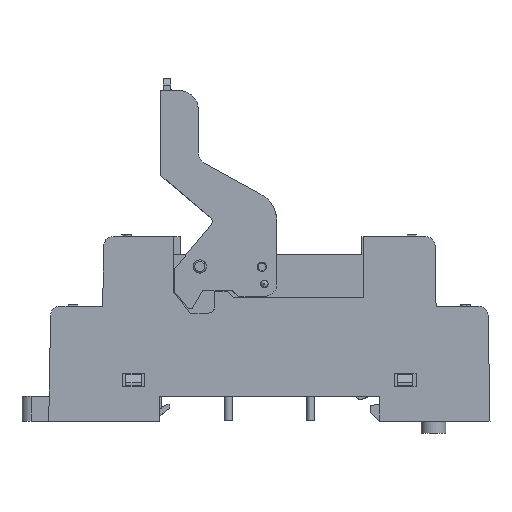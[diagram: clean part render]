
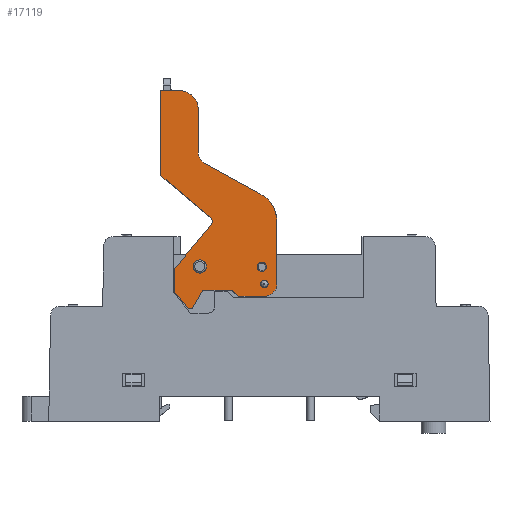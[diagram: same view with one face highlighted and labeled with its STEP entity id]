
A CAD part, top view. The second image highlights one B-rep face of the part: STEP entity #17119.
In plain terms, the highlighted planar face has unit normal (0, 0, 1).
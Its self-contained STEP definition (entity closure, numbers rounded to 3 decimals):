
#3271=FACE_BOUND('',#22493,.T.);
#3272=FACE_BOUND('',#22494,.T.);
#3273=FACE_BOUND('',#22495,.T.);
#3274=FACE_BOUND('',#22496,.T.);
#4280=PLANE('',#54170);
#7637=LINE('',#95614,#12869);
#7642=LINE('',#95629,#12874);
#7646=LINE('',#95646,#12878);
#7647=LINE('',#95651,#12879);
#7648=LINE('',#95653,#12880);
#7649=LINE('',#95655,#12881);
#7650=LINE('',#95659,#12882);
#7651=LINE('',#95661,#12883);
#7652=LINE('',#95663,#12884);
#7653=LINE('',#95665,#12885);
#7654=LINE('',#95669,#12886);
#7655=LINE('',#95672,#12887);
#7656=LINE('',#95674,#12888);
#12869=VECTOR('',#61859,1.);
#12874=VECTOR('',#61872,1.);
#12878=VECTOR('',#61890,1.);
#12879=VECTOR('',#61893,1.);
#12880=VECTOR('',#61894,1.);
#12881=VECTOR('',#61895,1.);
#12882=VECTOR('',#61898,1.);
#12883=VECTOR('',#61899,1.);
#12884=VECTOR('',#61900,1.);
#12885=VECTOR('',#61901,1.);
#12886=VECTOR('',#61904,1.);
#12887=VECTOR('',#61907,1.);
#12888=VECTOR('',#61908,1.);
#17119=ADVANCED_FACE('',(#3271,#3272,#3273,#3274),#4280,.T.);
#22493=EDGE_LOOP('',(#31224,#31225,#31226,#31227,#31228,#31229,#31230,#31231,
#31232,#31233,#31234,#31235,#31236,#31237,#31238,#31239,#31240,#31241,#31242));
#22494=EDGE_LOOP('',(#31243));
#22495=EDGE_LOOP('',(#31244));
#22496=EDGE_LOOP('',(#31245));
#31224=ORIENTED_EDGE('',*,*,#47257,.T.);
#31225=ORIENTED_EDGE('',*,*,#47258,.T.);
#31226=ORIENTED_EDGE('',*,*,#47259,.T.);
#31227=ORIENTED_EDGE('',*,*,#47260,.T.);
#31228=ORIENTED_EDGE('',*,*,#47261,.T.);
#31229=ORIENTED_EDGE('',*,*,#47262,.T.);
#31230=ORIENTED_EDGE('',*,*,#47263,.T.);
#31231=ORIENTED_EDGE('',*,*,#47264,.F.);
#31232=ORIENTED_EDGE('',*,*,#47265,.F.);
#31233=ORIENTED_EDGE('',*,*,#47266,.F.);
#31234=ORIENTED_EDGE('',*,*,#47267,.T.);
#31235=ORIENTED_EDGE('',*,*,#47268,.T.);
#31236=ORIENTED_EDGE('',*,*,#47269,.T.);
#31237=ORIENTED_EDGE('',*,*,#47242,.T.);
#31238=ORIENTED_EDGE('',*,*,#47248,.T.);
#31239=ORIENTED_EDGE('',*,*,#47249,.F.);
#31240=ORIENTED_EDGE('',*,*,#47254,.T.);
#31241=ORIENTED_EDGE('',*,*,#47270,.T.);
#31242=ORIENTED_EDGE('',*,*,#47271,.T.);
#31243=ORIENTED_EDGE('',*,*,#47272,.F.);
#31244=ORIENTED_EDGE('',*,*,#47256,.T.);
#31245=ORIENTED_EDGE('',*,*,#47273,.T.);
#41414=VERTEX_POINT('',#95615);
#41415=VERTEX_POINT('',#95616);
#41419=VERTEX_POINT('',#95626);
#41420=VERTEX_POINT('',#95630);
#41423=VERTEX_POINT('',#95638);
#41425=VERTEX_POINT('',#95644);
#41426=VERTEX_POINT('',#95647);
#41427=VERTEX_POINT('',#95648);
#41428=VERTEX_POINT('',#95650);
#41429=VERTEX_POINT('',#95652);
#41430=VERTEX_POINT('',#95654);
#41431=VERTEX_POINT('',#95656);
#41432=VERTEX_POINT('',#95658);
#41433=VERTEX_POINT('',#95660);
#41434=VERTEX_POINT('',#95662);
#41435=VERTEX_POINT('',#95664);
#41436=VERTEX_POINT('',#95666);
#41437=VERTEX_POINT('',#95668);
#41438=VERTEX_POINT('',#95670);
#41439=VERTEX_POINT('',#95673);
#41440=VERTEX_POINT('',#95676);
#41441=VERTEX_POINT('',#95678);
#47242=EDGE_CURVE('',#41414,#41415,#7637,.T.);
#47248=EDGE_CURVE('',#41415,#41419,#51891,.T.);
#47249=EDGE_CURVE('',#41420,#41419,#7642,.T.);
#47254=EDGE_CURVE('',#41420,#41423,#51893,.T.);
#47256=EDGE_CURVE('',#41425,#41425,#51895,.T.);
#47257=EDGE_CURVE('',#41426,#41427,#7646,.T.);
#47258=EDGE_CURVE('',#41427,#41428,#51896,.T.);
#47259=EDGE_CURVE('',#41428,#41429,#7647,.T.);
#47260=EDGE_CURVE('',#41429,#41430,#7648,.T.);
#47261=EDGE_CURVE('',#41430,#41431,#7649,.T.);
#47262=EDGE_CURVE('',#41431,#41432,#51897,.T.);
#47263=EDGE_CURVE('',#41432,#41433,#7650,.T.);
#47264=EDGE_CURVE('',#41434,#41433,#7651,.T.);
#47265=EDGE_CURVE('',#41435,#41434,#7652,.T.);
#47266=EDGE_CURVE('',#41436,#41435,#7653,.T.);
#47267=EDGE_CURVE('',#41436,#41437,#51898,.T.);
#47268=EDGE_CURVE('',#41437,#41438,#7654,.T.);
#47269=EDGE_CURVE('',#41438,#41414,#51899,.T.);
#47270=EDGE_CURVE('',#41423,#41439,#7655,.T.);
#47271=EDGE_CURVE('',#41439,#41426,#7656,.T.);
#47272=EDGE_CURVE('',#41440,#41440,#51900,.T.);
#47273=EDGE_CURVE('',#41441,#41441,#51901,.T.);
#51891=CIRCLE('',#54155,2.);
#51893=CIRCLE('',#54159,3.);
#51895=CIRCLE('',#54162,0.75);
#51896=CIRCLE('',#54164,1.);
#51897=CIRCLE('',#54165,0.5);
#51898=CIRCLE('',#54166,2.);
#51899=CIRCLE('',#54167,5.);
#51900=CIRCLE('',#54168,1.06);
#51901=CIRCLE('',#54169,0.6);
#54155=AXIS2_PLACEMENT_3D('',#95627,#61868,#61869);
#54159=AXIS2_PLACEMENT_3D('',#95639,#61880,#61881);
#54162=AXIS2_PLACEMENT_3D('',#95643,#61886,#61887);
#54164=AXIS2_PLACEMENT_3D('',#95649,#61891,#61892);
#54165=AXIS2_PLACEMENT_3D('',#95657,#61896,#61897);
#54166=AXIS2_PLACEMENT_3D('',#95667,#61902,#61903);
#54167=AXIS2_PLACEMENT_3D('',#95671,#61905,#61906);
#54168=AXIS2_PLACEMENT_3D('',#95675,#61909,#61910);
#54169=AXIS2_PLACEMENT_3D('',#95677,#61911,#61912);
#54170=AXIS2_PLACEMENT_3D('',#95679,#61913,#61914);
#61859=DIRECTION('',(-0.875,0.484,0.));
#61868=DIRECTION('',(0.,0.,-1.));
#61869=DIRECTION('',(0.,-1.,0.));
#61872=DIRECTION('',(0.,-1.,0.));
#61880=DIRECTION('',(0.,0.,1.));
#61881=DIRECTION('',(0.,-1.,0.));
#61886=DIRECTION('',(0.,0.,-1.));
#61887=DIRECTION('',(1.,0.,0.));
#61890=DIRECTION('',(0.766,-0.643,0.));
#61891=DIRECTION('',(0.,0.,-1.));
#61892=DIRECTION('',(0.,-1.,0.));
#61893=DIRECTION('',(-0.643,-0.766,0.));
#61894=DIRECTION('',(0.,-1.,0.));
#61895=DIRECTION('',(0.643,-0.766,0.));
#61896=DIRECTION('',(0.,0.,1.));
#61897=DIRECTION('',(0.,-1.,0.));
#61898=DIRECTION('',(0.5,0.866,0.));
#61899=DIRECTION('',(-1.,0.,0.));
#61900=DIRECTION('',(-0.766,0.643,0.));
#61901=DIRECTION('',(-1.,0.,0.));
#61902=DIRECTION('',(0.,0.,1.));
#61903=DIRECTION('',(0.,-1.,0.));
#61904=DIRECTION('',(0.,1.,0.));
#61905=DIRECTION('',(0.,0.,1.));
#61906=DIRECTION('',(0.,-1.,0.));
#61907=DIRECTION('',(-1.,0.,0.));
#61908=DIRECTION('',(0.,-1.,0.));
#61909=DIRECTION('',(0.,0.,1.));
#61910=DIRECTION('',(-0.966,0.259,0.));
#61911=DIRECTION('',(0.,0.,-1.));
#61912=DIRECTION('',(0.,-1.,0.));
#61913=DIRECTION('',(0.,0.,1.));
#61914=DIRECTION('',(1.,-0.012,0.));
#95614=CARTESIAN_POINT('',(1.167,31.1,7.524));
#95615=CARTESIAN_POINT('',(-1.412,32.527,7.524));
#95616=CARTESIAN_POINT('',(-10.451,37.529,7.524));
#95626=CARTESIAN_POINT('',(-11.483,39.279,7.524));
#95627=CARTESIAN_POINT('',(-9.483,39.279,7.524));
#95629=CARTESIAN_POINT('',(-11.483,39.2,7.524));
#95630=CARTESIAN_POINT('',(-11.483,46.2,7.524));
#95638=CARTESIAN_POINT('',(-14.483,49.2,7.524));
#95639=CARTESIAN_POINT('',(-14.483,46.2,7.524));
#95643=CARTESIAN_POINT('',(-1.254,20.85,7.524));
#95644=CARTESIAN_POINT('',(-0.504,20.85,7.524));
#95646=CARTESIAN_POINT('',(-7.86,27.429,7.524));
#95647=CARTESIAN_POINT('',(-17.483,35.504,7.524));
#95648=CARTESIAN_POINT('',(-9.601,28.89,7.524));
#95649=CARTESIAN_POINT('',(-10.244,28.124,7.524));
#95650=CARTESIAN_POINT('',(-9.478,27.482,7.524));
#95651=CARTESIAN_POINT('',(1.05,40.029,7.524));
#95652=CARTESIAN_POINT('',(-15.233,20.623,7.524));
#95653=CARTESIAN_POINT('',(-15.233,39.016,7.524));
#95654=CARTESIAN_POINT('',(-15.233,16.73,7.524));
#95655=CARTESIAN_POINT('',(-12.138,13.041,7.524));
#95656=CARTESIAN_POINT('',(-13.171,14.273,7.524));
#95657=CARTESIAN_POINT('',(-12.788,14.594,7.524));
#95658=CARTESIAN_POINT('',(-12.355,14.344,7.524));
#95659=CARTESIAN_POINT('',(1.981,39.176,7.524));
#95660=CARTESIAN_POINT('',(-10.764,17.1,7.524));
#95661=CARTESIAN_POINT('',(2.258,17.1,7.524));
#95662=CARTESIAN_POINT('',(-6.129,17.1,7.524));
#95663=CARTESIAN_POINT('',(-11.999,22.025,7.524));
#95664=CARTESIAN_POINT('',(-4.937,16.1,7.524));
#95665=CARTESIAN_POINT('',(2.258,16.1,7.524));
#95666=CARTESIAN_POINT('',(-0.833,16.1,7.524));
#95667=CARTESIAN_POINT('',(-0.833,18.1,7.524));
#95668=CARTESIAN_POINT('',(1.167,18.1,7.524));
#95669=CARTESIAN_POINT('',(1.167,39.016,7.524));
#95670=CARTESIAN_POINT('',(1.167,28.152,7.524));
#95671=CARTESIAN_POINT('',(-3.833,28.152,7.524));
#95672=CARTESIAN_POINT('',(-1.783,49.2,7.524));
#95673=CARTESIAN_POINT('',(-17.483,49.2,7.524));
#95674=CARTESIAN_POINT('',(-17.483,49.2,7.524));
#95675=CARTESIAN_POINT('',(-11.233,20.9,7.524));
#95676=CARTESIAN_POINT('',(-12.257,21.174,7.524));
#95677=CARTESIAN_POINT('',(-0.833,18.1,7.524));
#95678=CARTESIAN_POINT('',(-0.833,17.5,7.524));
#95679=CARTESIAN_POINT('',(2.258,39.016,7.524));
